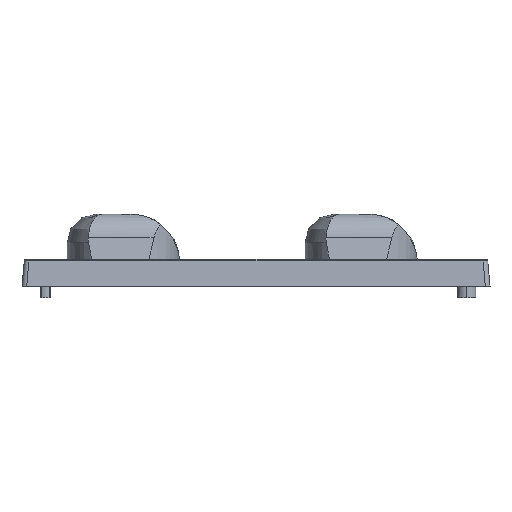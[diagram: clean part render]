
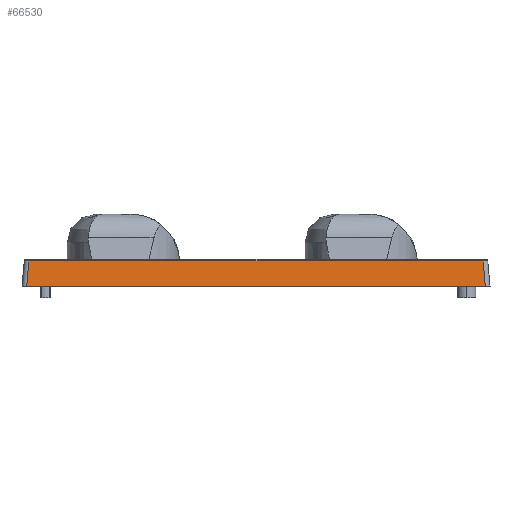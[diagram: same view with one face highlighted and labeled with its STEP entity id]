
A CAD part, left-side view. The second image highlights one B-rep face of the part: STEP entity #66530.
In plain terms, the highlighted planar face has unit normal (-0.996, 0, 0.087) as drawn and (0.996, 0, 0.087) by its records, which use the part's own axes.
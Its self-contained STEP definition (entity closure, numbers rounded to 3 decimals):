
#22270=CARTESIAN_POINT('',(37.7,-37.202,0.));
#22280=VERTEX_POINT('',#22270);
#22310=CARTESIAN_POINT('',(37.7,-37.7,0.));
#22320=DIRECTION('',(0.,1.,0.));
#22330=VECTOR('',#22320,1.);
#22340=LINE('',#22310,#22330);
#22350=CARTESIAN_POINT('',(37.7,11.802,0.));
#22360=VERTEX_POINT('',#22350);
#22370=EDGE_CURVE('',#22280,#22360,#22340,.T.);
#66230=CARTESIAN_POINT('',(37.7,0.,0.));
#66240=DIRECTION('',(-0.996,0.,-0.087));
#66250=DIRECTION('',(0.,1.,0.));
#66260=AXIS2_PLACEMENT_3D('',#66230,#66240,#66250);
#66270=PLANE('',#66260);
#66280=ORIENTED_EDGE('',*,*,#22370,.T.);
#66290=CARTESIAN_POINT('',(37.696,-37.198,
0.044));
#66300=DIRECTION('',(-0.087,0.087,
0.992));
#66310=VECTOR('',#66300,1.);
#66320=LINE('',#66290,#66310);
#66330=CARTESIAN_POINT('',(37.462,-36.964,
2.717));
#66340=VERTEX_POINT('',#66330);
#66350=EDGE_CURVE('',#22280,#66340,#66320,.T.);
#66360=ORIENTED_EDGE('',*,*,#66350,.F.);
#66370=CARTESIAN_POINT('',(37.462,0.,2.717));
#66380=DIRECTION('',(0.,-1.,0.));
#66390=VECTOR('',#66380,1.);
#66400=LINE('',#66370,#66390);
#66410=CARTESIAN_POINT('',(37.462,11.564,
2.717));
#66420=VERTEX_POINT('',#66410);
#66430=EDGE_CURVE('',#66420,#66340,#66400,.T.);
#66440=ORIENTED_EDGE('',*,*,#66430,.T.);
#66450=CARTESIAN_POINT('',(37.696,11.798,
0.044));
#66460=DIRECTION('',(-0.087,-0.087,
0.992));
#66470=VECTOR('',#66460,1.);
#66480=LINE('',#66450,#66470);
#66490=EDGE_CURVE('',#22360,#66420,#66480,.T.);
#66500=ORIENTED_EDGE('',*,*,#66490,.T.);
#66510=EDGE_LOOP('',(#66500,#66440,#66360,#66280));
#66520=FACE_OUTER_BOUND('',#66510,.T.);
#66530=ADVANCED_FACE('',(#66520),#66270,.F.);
